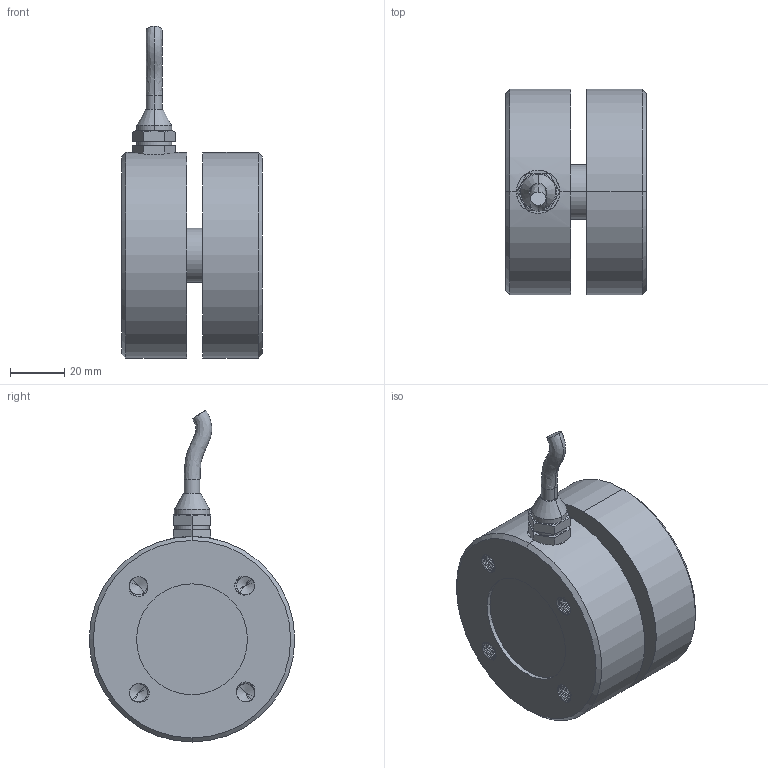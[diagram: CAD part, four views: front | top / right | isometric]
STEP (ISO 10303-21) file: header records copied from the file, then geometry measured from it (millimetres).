
FILE_DESCRIPTION((''),'2;1');
FILE_NAME('ZPT_ASM','2021-10-22T',('hzcgq'),(''),'PRO/ENGINEER BY PARAMETRIC TECHNOLOGY CORPORATION, 2015070','PRO/ENGINEER BY PARAMETRIC TECHNOLOGY CORPORATION, 2015070','');
FILE_SCHEMA(('CONFIG_CONTROL_DESIGN'));
Length unit declared in the file: millimetre
Products named in the file (3): TXT; M10JIETOU; ZPT_ASM
Assembly tree (2 placements, depth 2):
  ZPT_ASM
    TXT
    M10JIETOU
Bounding box: 52 x 76 x 122.78 mm (x, y, z)
Volume: 205901 mm3; surface area: 34793.8 mm2
Topology: 2 solids, 2 shells, 311 faces, 849 edges, 543 vertices
Faces by surface type: cylinder 180, bspline 62, plane 35, cone 34
Entity records: 23390 total; most frequent: CARTESIAN_POINT 16538, ORIENTED_EDGE 1666, DIRECTION 978, EDGE_CURVE 833, VERTEX_POINT 543, B_SPLINE_CURVE_WITH_KNOTS 444, AXIS2_PLACEMENT_3D 335, EDGE_LOOP 328
